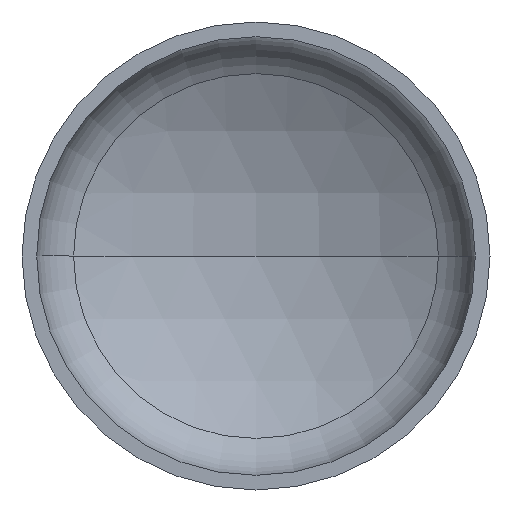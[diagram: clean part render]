
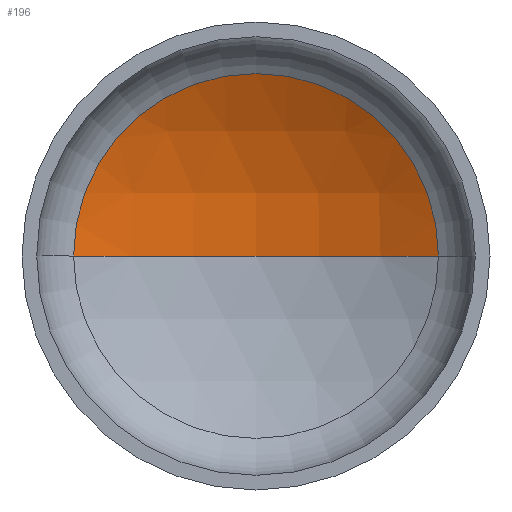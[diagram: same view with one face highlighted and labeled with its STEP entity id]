
A CAD part, front view. The second image highlights one B-rep face of the part: STEP entity #196.
In plain terms, the highlighted spherical face has radius 1120 mm.
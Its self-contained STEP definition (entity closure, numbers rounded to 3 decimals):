
#10 = AXIS2_PLACEMENT_3D ( 'NONE', #378, #325, #344 ) ;
#14 = AXIS2_PLACEMENT_3D ( 'NONE', #227, #226, #223 ) ;
#23 = VERTEX_POINT ( 'NONE', #240 ) ;
#38 = AXIS2_PLACEMENT_3D ( 'NONE', #81, #411, #124 ) ;
#69 = VERTEX_POINT ( 'NONE', #163 ) ;
#81 = CARTESIAN_POINT ( 'NONE',  ( 0., -650.281, 0. ) ) ;
#89 = ORIENTED_EDGE ( 'NONE', *, *, #329, .T. ) ;
#121 = VERTEX_POINT ( 'NONE', #318 ) ;
#124 = DIRECTION ( 'NONE',  ( -1., 0., 0. ) ) ;
#132 = ORIENTED_EDGE ( 'NONE', *, *, #379, .T. ) ;
#135 = EDGE_LOOP ( 'NONE', ( #139, #132, #89 ) ) ;
#139 = ORIENTED_EDGE ( 'NONE', *, *, #356, .F. ) ;
#163 = CARTESIAN_POINT ( 'NONE',  ( -545.768, 327.746, 0. ) ) ;
#164 = CIRCLE ( 'NONE', #217, 1120. ) ;
#179 = DIRECTION ( 'NONE',  ( -1., 0., 0. ) ) ;
#180 = DIRECTION ( 'NONE',  ( 0., 0., -1. ) ) ;
#182 = CIRCLE ( 'NONE', #10, 1120. ) ;
#183 = CARTESIAN_POINT ( 'NONE',  ( 0., -650.281, 0. ) ) ;
#192 = CIRCLE ( 'NONE', #14, 545.768 ) ;
#196 = ADVANCED_FACE ( 'NONE', ( #401 ), #224, .F. ) ;
#217 = AXIS2_PLACEMENT_3D ( 'NONE', #183, #180, #179 ) ;
#223 = DIRECTION ( 'NONE',  ( 1., 0., 0. ) ) ;
#224 = SPHERICAL_SURFACE ( 'NONE', #38, 1120. ) ;
#226 = DIRECTION ( 'NONE',  ( 0., -1., 0. ) ) ;
#227 = CARTESIAN_POINT ( 'NONE',  ( 0., 327.746, 0. ) ) ;
#240 = CARTESIAN_POINT ( 'NONE',  ( 545.768, 327.746, 0. ) ) ;
#318 = CARTESIAN_POINT ( 'NONE',  ( 0., 469.719, 0. ) ) ;
#325 = DIRECTION ( 'NONE',  ( 0., 0., 1. ) ) ;
#329 = EDGE_CURVE ( 'NONE', #23, #69, #192, .T. ) ;
#344 = DIRECTION ( 'NONE',  ( 1., 0., 0. ) ) ;
#356 = EDGE_CURVE ( 'NONE', #121, #69, #182, .T. ) ;
#378 = CARTESIAN_POINT ( 'NONE',  ( 0., -650.281, 0. ) ) ;
#379 = EDGE_CURVE ( 'NONE', #121, #23, #164, .T. ) ;
#401 = FACE_OUTER_BOUND ( 'NONE', #135, .T. ) ;
#411 = DIRECTION ( 'NONE',  ( 0., 0., -1. ) ) ;
